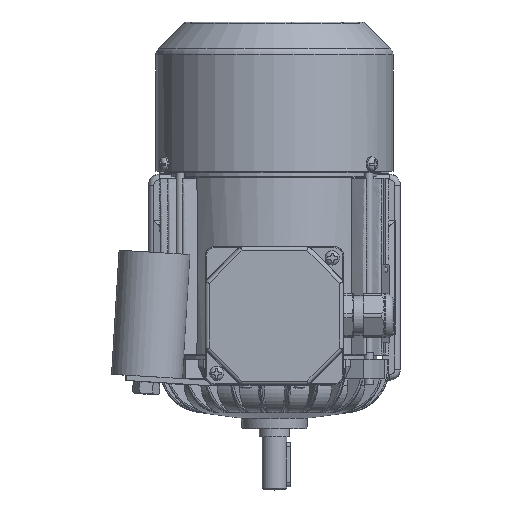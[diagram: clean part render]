
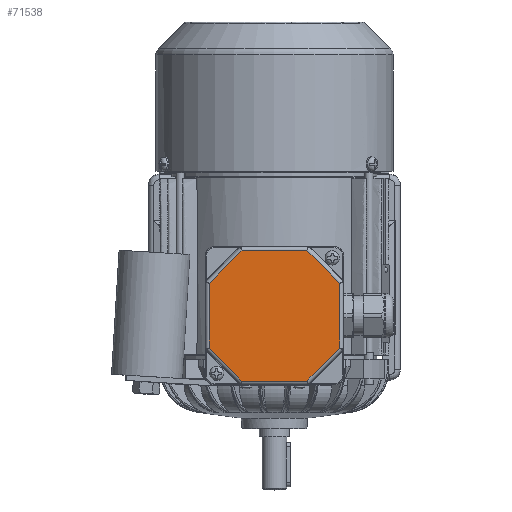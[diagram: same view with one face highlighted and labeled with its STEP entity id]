
A CAD part, top view. The second image highlights one B-rep face of the part: STEP entity #71538.
In plain terms, the highlighted planar face has unit normal (0, 0, 1).
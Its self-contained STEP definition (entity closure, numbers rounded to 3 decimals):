
#7519=ORIENTED_EDGE('',*,*,#23163,.T.);
#7520=ORIENTED_EDGE('',*,*,#23075,.T.);
#7521=ORIENTED_EDGE('',*,*,#23164,.T.);
#7522=ORIENTED_EDGE('',*,*,#23079,.T.);
#7523=ORIENTED_EDGE('',*,*,#23165,.T.);
#7524=ORIENTED_EDGE('',*,*,#23071,.T.);
#7525=ORIENTED_EDGE('',*,*,#23166,.T.);
#7526=ORIENTED_EDGE('',*,*,#23069,.T.);
#23069=EDGE_CURVE('',#30945,#30944,#36087,.T.);
#23071=EDGE_CURVE('',#30946,#30947,#36088,.T.);
#23075=EDGE_CURVE('',#30950,#30951,#36090,.T.);
#23079=EDGE_CURVE('',#30954,#30955,#36092,.T.);
#23163=EDGE_CURVE('',#30944,#30950,#36125,.F.);
#23164=EDGE_CURVE('',#30951,#30954,#36126,.F.);
#23165=EDGE_CURVE('',#30955,#30946,#36127,.F.);
#23166=EDGE_CURVE('',#30947,#30945,#36128,.F.);
#30944=VERTEX_POINT('',#93596);
#30945=VERTEX_POINT('',#93598);
#30946=VERTEX_POINT('',#93602);
#30947=VERTEX_POINT('',#93603);
#30950=VERTEX_POINT('',#93611);
#30951=VERTEX_POINT('',#93612);
#30954=VERTEX_POINT('',#93620);
#30955=VERTEX_POINT('',#93621);
#36087=LINE('',#93597,#39206);
#36088=LINE('',#93601,#39207);
#36090=LINE('',#93610,#39209);
#36092=LINE('',#93619,#39211);
#36125=LINE('',#93933,#39244);
#36126=LINE('',#93934,#39245);
#36127=LINE('',#93935,#39246);
#36128=LINE('',#93936,#39247);
#39206=VECTOR('',#80009,1000.);
#39207=VECTOR('',#80014,1000.);
#39209=VECTOR('',#80022,1000.);
#39211=VECTOR('',#80030,1000.);
#39244=VECTOR('',#80195,1000.);
#39245=VECTOR('',#80196,1000.);
#39246=VECTOR('',#80197,1000.);
#39247=VECTOR('',#80198,1000.);
#42315=EDGE_LOOP('',(#7519,#7520,#7521,#7522,#7523,#7524,#7525,#7526));
#45760=FACE_BOUND('',#42315,.T.);
#49125=PLANE('',#74680);
#71538=ADVANCED_FACE('',(#45760),#49125,.T.);
#74680=AXIS2_PLACEMENT_3D('',#93932,#80193,#80194);
#80009=DIRECTION('',(-0.707,0.707,0.));
#80014=DIRECTION('',(0.707,0.707,0.));
#80022=DIRECTION('',(-0.707,-0.707,0.));
#80030=DIRECTION('',(0.707,-0.707,0.));
#80193=DIRECTION('',(0.,0.,1.));
#80194=DIRECTION('',(0.,1.,0.));
#80195=DIRECTION('',(1.,0.,0.));
#80196=DIRECTION('',(0.,1.,0.));
#80197=DIRECTION('',(-1.,0.,0.));
#80198=DIRECTION('',(0.,-1.,0.));
#93596=CARTESIAN_POINT('',(18.255,63.825,110.5));
#93597=CARTESIAN_POINT('',(17.679,64.401,110.5));
#93598=CARTESIAN_POINT('',(36.825,45.255,110.5));
#93601=CARTESIAN_POINT('',(37.401,9.321,110.5));
#93602=CARTESIAN_POINT('',(18.255,-9.825,110.5));
#93603=CARTESIAN_POINT('',(36.825,8.745,110.5));
#93610=CARTESIAN_POINT('',(-37.401,44.679,110.5));
#93611=CARTESIAN_POINT('',(-18.255,63.825,110.5));
#93612=CARTESIAN_POINT('',(-36.825,45.255,110.5));
#93619=CARTESIAN_POINT('',(-17.679,-10.401,110.5));
#93620=CARTESIAN_POINT('',(-36.825,8.745,110.5));
#93621=CARTESIAN_POINT('',(-18.255,-9.825,110.5));
#93932=CARTESIAN_POINT('',(-39.,-12.,110.5));
#93933=CARTESIAN_POINT('',(-19.069,63.825,110.5));
#93934=CARTESIAN_POINT('',(-36.825,7.931,110.5));
#93935=CARTESIAN_POINT('',(19.069,-9.825,110.5));
#93936=CARTESIAN_POINT('',(36.825,46.069,110.5));
